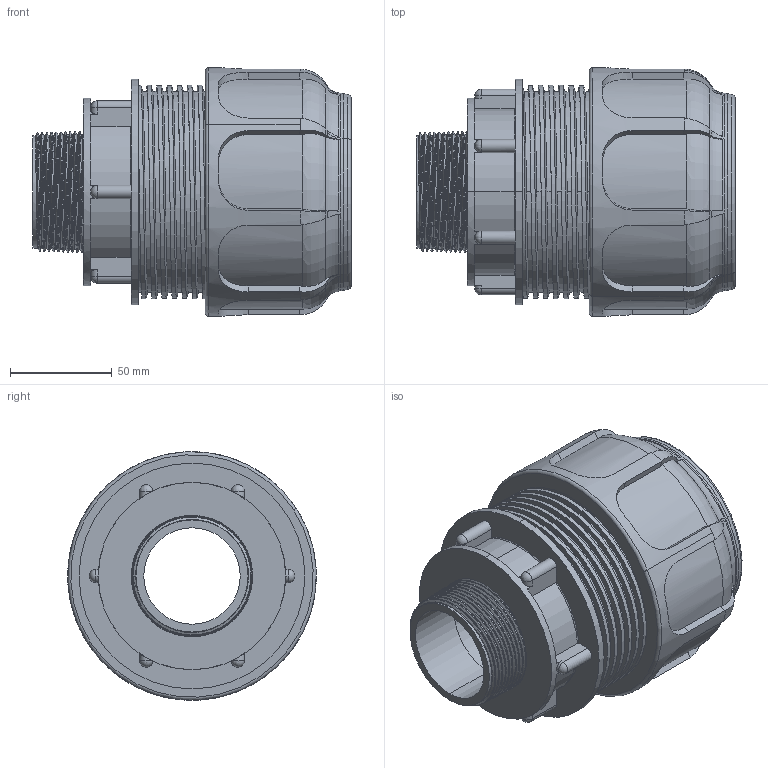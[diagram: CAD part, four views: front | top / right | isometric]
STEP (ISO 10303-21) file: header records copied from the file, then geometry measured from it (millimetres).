
FILE_DESCRIPTION (( 'STEP AP203' ), '1' );
FILE_NAME ('02004.1560.STEP', '2017-05-22T14:32:16', ( '' ), ( '' ), 'SwSTEP 2.0', 'SolidWorks 2011', '' );
FILE_SCHEMA (( 'CONFIG_CONTROL_DESIGN' ));
Products named in the file (3): 02004.1560; 01711_6060; 01770_1560
Assembly tree (2 placements, depth 2):
  02004.1560
    01711_6060
    01770_1560
Bounding box: 156.59 x 122.3 x 122.3 mm (x, y, z)
Volume: 473739.9 mm3; surface area: 207172.8 mm2
Topology: 2 solids, 2 shells, 437 faces, 1520 edges, 1086 vertices
Faces by surface type: plane 131, cylinder 129, torus 104, cone 56, bspline 11, sphere 6
Entity records: 36848 total; most frequent: CARTESIAN_POINT 24651, ORIENTED_EDGE 3018, DIRECTION 1970, EDGE_CURVE 1509, VERTEX_POINT 1084, AXIS2_PLACEMENT_3D 800, B_SPLINE_CURVE_WITH_KNOTS 647, EDGE_LOOP 449
